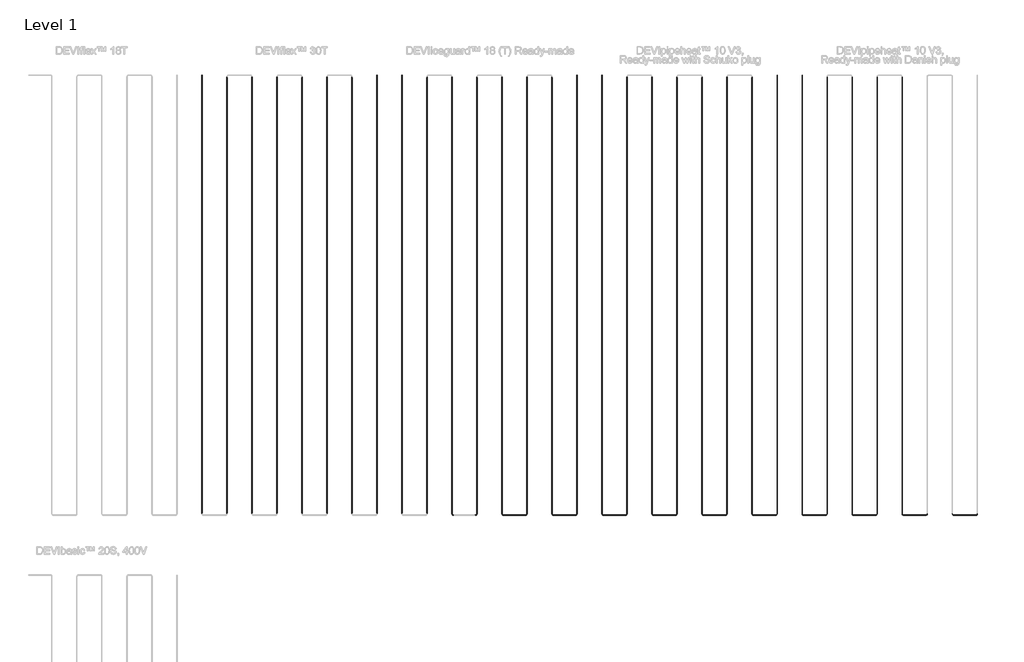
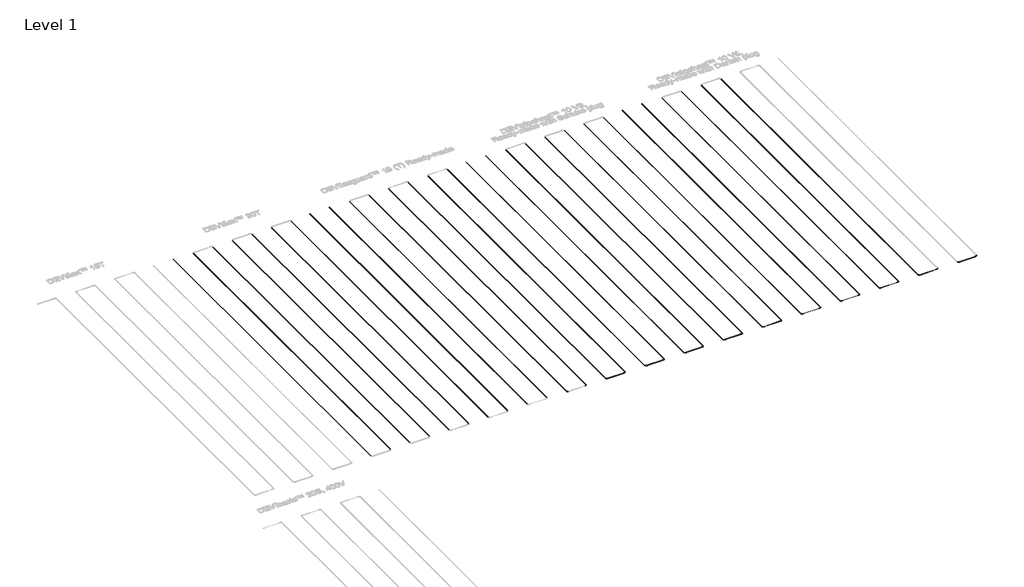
# One storey, part 8 of 26: 39 cable carrier segments, 22 cable carrier fittings.
"""IFC4 building model written with IfcOpenShell, lengths in millimetres."""

from ifc_helpers import new_model, si_unit, point, frame, frame_2d, origin, place, context, project, spatial, circle_curve, trimmed, segment, composite_curve, outline, extrude, transform, mapped, element, save
from components import cable_carrier_fitting_e4b1aeb6

model = new_model("IFC4")

# Units and contexts
model_context = context("Model", 3, world=origin())
ifc_project = project(units=[si_unit("LENGTHUNIT", "METRE", prefix="MILLI")], contexts=[model_context])

# Site, building, storey
site = spatial("IfcSite", under=ifc_project)
building = spatial("IfcBuilding", under=site)
storey = spatial("IfcBuildingStorey", under=building, Name="Level 1", Elevation=0.0)

# Cable carrier fittings
placement = place(None, origin())
cable_carrier_fitting_shape = cable_carrier_fitting_e4b1aeb6(model_context)
element("IfcCableCarrierFitting", 1, ObjectType="Danfoss Elbow : DEVIiceguard™ 18 (T) Ready-made", at=placement, inside=storey, context=model_context, shape_type="MappedRepresentation", body=[
    mapped(cable_carrier_fitting_shape, transform((5412.6597555, -6738.7894079, -100.0), x_axis=(0.0, -1.0, 0.0), y_axis=(1.0, 0.0, 0.0), z_axis=(0.0, 0.0, 1.0))),
])
element("IfcCableCarrierFitting", 2, ObjectType="Danfoss Elbow : DEVIiceguard™ 18 (T) Ready-made", at=placement, inside=storey, context=model_context, shape_type="MappedRepresentation", body=[
    mapped(cable_carrier_fitting_shape, transform((5912.6597555, -6738.7894079, -100.0), x_axis=(1.0, 0.0, 0.0), y_axis=(0.0, 1.0, 0.0), z_axis=(0.0, 0.0, 1.0))),
])
element("IfcCableCarrierFitting", 3, ObjectType="Danfoss Elbow : DEVIiceguard™ 18 (T) Ready-made", at=placement, inside=storey, context=model_context, shape_type="MappedRepresentation", body=[
    mapped(cable_carrier_fitting_shape, transform((6412.6597555, -6738.7894079, -100.0), x_axis=(0.0, -1.0, 0.0), y_axis=(1.0, 0.0, 0.0), z_axis=(0.0, 0.0, 1.0))),
])
element("IfcCableCarrierFitting", 4, ObjectType="Danfoss Elbow : DEVIiceguard™ 18 (T) Ready-made", at=placement, inside=storey, context=model_context, shape_type="MappedRepresentation", body=[
    mapped(cable_carrier_fitting_shape, transform((6912.6597555, -6738.7894079, -100.0), x_axis=(1.0, 0.0, 0.0), y_axis=(0.0, 1.0, 0.0), z_axis=(0.0, 0.0, 1.0))),
])
element("IfcCableCarrierFitting", 5, ObjectType="Danfoss Elbow : DEVIiceguard™ 18 (T) Ready-made", at=placement, inside=storey, context=model_context, shape_type="MappedRepresentation", body=[
    mapped(cable_carrier_fitting_shape, transform((7412.6597555, -6738.7894079, -100.0), x_axis=(0.0, -1.0, 0.0), y_axis=(1.0, 0.0, 0.0), z_axis=(0.0, 0.0, 1.0))),
])
element("IfcCableCarrierFitting", 6, ObjectType="Danfoss Elbow : DEVIiceguard™ 18 (T) Ready-made", at=placement, inside=storey, context=model_context, shape_type="MappedRepresentation", body=[
    mapped(cable_carrier_fitting_shape, transform((7912.6597555, -6738.7894079, -100.0), x_axis=(1.0, 0.0, 0.0), y_axis=(0.0, 1.0, 0.0), z_axis=(0.0, 0.0, 1.0))),
])
element("IfcCableCarrierFitting", 7, ObjectType="Danfoss Elbow : DEVIpipeheat™ 10 V3, Ready-made with Schuko plug", at=placement, inside=storey, context=model_context, shape_type="MappedRepresentation", body=[
    mapped(cable_carrier_fitting_shape, transform((8412.6597555, -6738.7894079, -100.0), x_axis=(0.0, -1.0, 0.0), y_axis=(1.0, 0.0, 0.0), z_axis=(0.0, 0.0, 1.0))),
])
element("IfcCableCarrierFitting", 8, ObjectType="Danfoss Elbow : DEVIpipeheat™ 10 V3, Ready-made with Schuko plug", at=placement, inside=storey, context=model_context, shape_type="MappedRepresentation", body=[
    mapped(cable_carrier_fitting_shape, transform((8912.6597555, -6738.7894079, -100.0), x_axis=(1.0, 0.0, 0.0), y_axis=(0.0, 1.0, 0.0), z_axis=(0.0, 0.0, 1.0))),
])
element("IfcCableCarrierFitting", 9, ObjectType="Danfoss Elbow : DEVIpipeheat™ 10 V3, Ready-made with Schuko plug", at=placement, inside=storey, context=model_context, shape_type="MappedRepresentation", body=[
    mapped(cable_carrier_fitting_shape, transform((9412.6597555, -6738.7894079, -100.0), x_axis=(0.0, -1.0, 0.0), y_axis=(1.0, 0.0, 0.0), z_axis=(0.0, 0.0, 1.0))),
])
element("IfcCableCarrierFitting", 10, ObjectType="Danfoss Elbow : DEVIpipeheat™ 10 V3, Ready-made with Schuko plug", at=placement, inside=storey, context=model_context, shape_type="MappedRepresentation", body=[
    mapped(cable_carrier_fitting_shape, transform((9912.6597555, -6738.7894079, -100.0), x_axis=(1.0, 0.0, 0.0), y_axis=(0.0, 1.0, 0.0), z_axis=(0.0, 0.0, 1.0))),
])
element("IfcCableCarrierFitting", 11, ObjectType="Danfoss Elbow : DEVIpipeheat™ 10 V3, Ready-made with Schuko plug", at=placement, inside=storey, context=model_context, shape_type="MappedRepresentation", body=[
    mapped(cable_carrier_fitting_shape, transform((10412.6597555, -6738.7894079, -100.0), x_axis=(0.0, -1.0, 0.0), y_axis=(1.0, 0.0, 0.0), z_axis=(0.0, 0.0, 1.0))),
])
element("IfcCableCarrierFitting", 12, ObjectType="Danfoss Elbow : DEVIpipeheat™ 10 V3, Ready-made with Schuko plug", at=placement, inside=storey, context=model_context, shape_type="MappedRepresentation", body=[
    mapped(cable_carrier_fitting_shape, transform((10912.6597555, -6738.7894079, -100.0), x_axis=(1.0, 0.0, 0.0), y_axis=(0.0, 1.0, 0.0), z_axis=(0.0, 0.0, 1.0))),
])
element("IfcCableCarrierFitting", 13, ObjectType="Danfoss Elbow : DEVIpipeheat™ 10 V3, Ready-made with Schuko plug", at=placement, inside=storey, context=model_context, shape_type="MappedRepresentation", body=[
    mapped(cable_carrier_fitting_shape, transform((11412.6597555, -6738.7894079, -100.0), x_axis=(0.0, -1.0, 0.0), y_axis=(1.0, 0.0, 0.0), z_axis=(0.0, 0.0, 1.0))),
])
element("IfcCableCarrierFitting", 14, ObjectType="Danfoss Elbow : DEVIpipeheat™ 10 V3, Ready-made with Schuko plug", at=placement, inside=storey, context=model_context, shape_type="MappedRepresentation", body=[
    mapped(cable_carrier_fitting_shape, transform((11912.6597555, -6738.7894079, -100.0), x_axis=(1.0, 0.0, 0.0), y_axis=(0.0, 1.0, 0.0), z_axis=(0.0, 0.0, 1.0))),
])
element("IfcCableCarrierFitting", 15, ObjectType="Danfoss Elbow : DEVIpipeheat™ 10 V3, Ready-made with Danish plug", at=placement, inside=storey, context=model_context, shape_type="MappedRepresentation", body=[
    mapped(cable_carrier_fitting_shape, transform((12412.6597555, -6738.7894079, -100.0), x_axis=(0.0, -1.0, 0.0), y_axis=(1.0, 0.0, 0.0), z_axis=(0.0, 0.0, 1.0))),
])
element("IfcCableCarrierFitting", 16, ObjectType="Danfoss Elbow : DEVIpipeheat™ 10 V3, Ready-made with Danish plug", at=placement, inside=storey, context=model_context, shape_type="MappedRepresentation", body=[
    mapped(cable_carrier_fitting_shape, transform((12912.6597555, -6738.7894079, -100.0), x_axis=(1.0, 0.0, 0.0), y_axis=(0.0, 1.0, 0.0), z_axis=(0.0, 0.0, 1.0))),
])
element("IfcCableCarrierFitting", 17, ObjectType="Danfoss Elbow : DEVIpipeheat™ 10 V3, Ready-made with Danish plug", at=placement, inside=storey, context=model_context, shape_type="MappedRepresentation", body=[
    mapped(cable_carrier_fitting_shape, transform((13412.6597555, -6738.7894079, -100.0), x_axis=(0.0, -1.0, 0.0), y_axis=(1.0, 0.0, 0.0), z_axis=(0.0, 0.0, 1.0))),
])
element("IfcCableCarrierFitting", 18, ObjectType="Danfoss Elbow : DEVIpipeheat™ 10 V3, Ready-made with Danish plug", at=placement, inside=storey, context=model_context, shape_type="MappedRepresentation", body=[
    mapped(cable_carrier_fitting_shape, transform((13912.6597555, -6738.7894079, -100.0), x_axis=(1.0, 0.0, 0.0), y_axis=(0.0, 1.0, 0.0), z_axis=(0.0, 0.0, 1.0))),
])
element("IfcCableCarrierFitting", 19, ObjectType="Danfoss Elbow : DEVIpipeheat™ 10 V3, Ready-made with Danish plug", at=placement, inside=storey, context=model_context, shape_type="MappedRepresentation", body=[
    mapped(cable_carrier_fitting_shape, transform((14412.6597555, -6738.7894079, -100.0), x_axis=(0.0, -1.0, 0.0), y_axis=(1.0, 0.0, 0.0), z_axis=(0.0, 0.0, 1.0))),
])
element("IfcCableCarrierFitting", 20, ObjectType="Danfoss Elbow : DEVIpipeheat™ 10 V3, Ready-made with Danish plug", at=placement, inside=storey, context=model_context, shape_type="MappedRepresentation", body=[
    mapped(cable_carrier_fitting_shape, transform((14912.6597555, -6738.7894079, -100.0), x_axis=(1.0, 0.0, 0.0), y_axis=(0.0, 1.0, 0.0), z_axis=(0.0, 0.0, 1.0))),
])
element("IfcCableCarrierFitting", 21, ObjectType="Danfoss Elbow : DEVIpipeheat™ 10 V3, Ready-made with Danish plug", at=placement, inside=storey, context=model_context, shape_type="MappedRepresentation", body=[
    mapped(cable_carrier_fitting_shape, transform((15412.6597555, -6738.7894079, -100.0), x_axis=(0.0, -1.0, 0.0), y_axis=(1.0, 0.0, 0.0), z_axis=(0.0, 0.0, 1.0))),
])
element("IfcCableCarrierFitting", 22, ObjectType="Danfoss Elbow : DEVIpipeheat™ 10 V3, Ready-made with Danish plug", at=placement, inside=storey, context=model_context, shape_type="MappedRepresentation", body=[
    mapped(cable_carrier_fitting_shape, transform((15912.6597555, -6738.7894079, -100.0), x_axis=(1.0, 0.0, 0.0), y_axis=(0.0, 1.0, 0.0), z_axis=(0.0, 0.0, 1.0))),
])

# Cable carrier segments
element("IfcCableCarrierSegment", 23, ObjectType="DEVIflex™ 30T", at=placement, inside=storey, context=model_context, shape_type="SweptSolid", body=[
    extrude(outline(composite_curve([segment(trimmed(circle_curve(frame_2d((-100.0, 412.6597555)), 3.45), [point((-100.0, 409.2097555))], [point((-103.45, 412.6597555))], False, "CARTESIAN"), True, "CONTINUOUS"), segment(trimmed(circle_curve(frame_2d((-100.0, 412.6597555)), 3.45), [point((-103.45, 412.6597555))], [point((-100.0, 416.1097555))], False, "CARTESIAN"), True, "CONTINUOUS"), segment(trimmed(circle_curve(frame_2d((-100.0, 412.6597555)), 3.45), [point((-100.0, 416.1097555))], [point((-96.55, 412.6597555))], False, "CARTESIAN"), True, "CONTINUOUS"), segment(trimmed(circle_curve(frame_2d((-100.0, 412.6597555)), 3.45), [point((-96.55, 412.6597555))], [point((-100.0, 409.2097555))], False, "CARTESIAN"), True, "CONTINUOUS")], self_intersect=False)), frame((0.0, -6703.7894079, 0.0), z_axis=(0.0, 1.0, 0.0), x_axis=(0.0, 0.0, 1.0)), (0.0, 0.0, 1.0), 8765.0),
])
element("IfcCableCarrierSegment", 24, ObjectType="DEVIflex™ 30T", at=placement, inside=storey, context=model_context, shape_type="SweptSolid", body=[
    extrude(outline(composite_curve([segment(trimmed(circle_curve(frame_2d((-100.0, 912.6597555)), 3.45), [point((-100.0, 916.1097555))], [point((-96.55, 912.6597555))], False, "CARTESIAN"), True, "CONTINUOUS"), segment(trimmed(circle_curve(frame_2d((-100.0, 912.6597555)), 3.45), [point((-96.55, 912.6597555))], [point((-100.0, 909.2097555))], False, "CARTESIAN"), True, "CONTINUOUS"), segment(trimmed(circle_curve(frame_2d((-100.0, 912.6597555)), 3.45), [point((-100.0, 909.2097555))], [point((-103.45, 912.6597555))], False, "CARTESIAN"), True, "CONTINUOUS"), segment(trimmed(circle_curve(frame_2d((-100.0, 912.6597555)), 3.45), [point((-103.45, 912.6597555))], [point((-100.0, 916.1097555))], False, "CARTESIAN"), True, "CONTINUOUS")], self_intersect=False)), frame((0.0, -6703.7894079, 0.0), z_axis=(0.0, 1.0, 0.0), x_axis=(0.0, 0.0, 1.0)), (0.0, 0.0, 1.0), 8730.0),
])
element("IfcCableCarrierSegment", 25, ObjectType="DEVIflex™ 30T", at=placement, inside=storey, context=model_context, shape_type="SweptSolid", body=[
    extrude(outline(composite_curve([segment(trimmed(circle_curve(frame_2d((-100.0, 1412.6597555)), 3.45), [point((-100.0, 1409.2097555))], [point((-103.45, 1412.6597555))], False, "CARTESIAN"), True, "CONTINUOUS"), segment(trimmed(circle_curve(frame_2d((-100.0, 1412.6597555)), 3.45), [point((-103.45, 1412.6597555))], [point((-100.0, 1416.1097555))], False, "CARTESIAN"), True, "CONTINUOUS"), segment(trimmed(circle_curve(frame_2d((-100.0, 1412.6597555)), 3.45), [point((-100.0, 1416.1097555))], [point((-96.55, 1412.6597555))], False, "CARTESIAN"), True, "CONTINUOUS"), segment(trimmed(circle_curve(frame_2d((-100.0, 1412.6597555)), 3.45), [point((-96.55, 1412.6597555))], [point((-100.0, 1409.2097555))], False, "CARTESIAN"), True, "CONTINUOUS")], self_intersect=False)), frame((0.0, -6703.7894079, 0.0), z_axis=(0.0, 1.0, 0.0), x_axis=(0.0, 0.0, 1.0)), (0.0, 0.0, 1.0), 8730.0),
])
element("IfcCableCarrierSegment", 26, ObjectType="DEVIflex™ 30T", at=placement, inside=storey, context=model_context, shape_type="SweptSolid", body=[
    extrude(outline(composite_curve([segment(trimmed(circle_curve(frame_2d((-100.0, 1912.6597555)), 3.45), [point((-100.0, 1916.1097555))], [point((-96.55, 1912.6597555))], False, "CARTESIAN"), True, "CONTINUOUS"), segment(trimmed(circle_curve(frame_2d((-100.0, 1912.6597555)), 3.45), [point((-96.55, 1912.6597555))], [point((-100.0, 1909.2097555))], False, "CARTESIAN"), True, "CONTINUOUS"), segment(trimmed(circle_curve(frame_2d((-100.0, 1912.6597555)), 3.45), [point((-100.0, 1909.2097555))], [point((-103.45, 1912.6597555))], False, "CARTESIAN"), True, "CONTINUOUS"), segment(trimmed(circle_curve(frame_2d((-100.0, 1912.6597555)), 3.45), [point((-103.45, 1912.6597555))], [point((-100.0, 1916.1097555))], False, "CARTESIAN"), True, "CONTINUOUS")], self_intersect=False)), frame((0.0, -6703.7894079, 0.0), z_axis=(0.0, 1.0, 0.0), x_axis=(0.0, 0.0, 1.0)), (0.0, 0.0, 1.0), 8730.0),
])
element("IfcCableCarrierSegment", 27, ObjectType="DEVIflex™ 30T", at=placement, inside=storey, context=model_context, shape_type="SweptSolid", body=[
    extrude(outline(composite_curve([segment(trimmed(circle_curve(frame_2d((-100.0, 2412.6597555)), 3.45), [point((-100.0, 2409.2097555))], [point((-103.45, 2412.6597555))], False, "CARTESIAN"), True, "CONTINUOUS"), segment(trimmed(circle_curve(frame_2d((-100.0, 2412.6597555)), 3.45), [point((-103.45, 2412.6597555))], [point((-100.0, 2416.1097555))], False, "CARTESIAN"), True, "CONTINUOUS"), segment(trimmed(circle_curve(frame_2d((-100.0, 2412.6597555)), 3.45), [point((-100.0, 2416.1097555))], [point((-96.55, 2412.6597555))], False, "CARTESIAN"), True, "CONTINUOUS"), segment(trimmed(circle_curve(frame_2d((-100.0, 2412.6597555)), 3.45), [point((-96.55, 2412.6597555))], [point((-100.0, 2409.2097555))], False, "CARTESIAN"), True, "CONTINUOUS")], self_intersect=False)), frame((0.0, -6703.7894079, 0.0), z_axis=(0.0, 1.0, 0.0), x_axis=(0.0, 0.0, 1.0)), (0.0, 0.0, 1.0), 8730.0),
])
element("IfcCableCarrierSegment", 28, ObjectType="DEVIflex™ 30T", at=placement, inside=storey, context=model_context, shape_type="SweptSolid", body=[
    extrude(outline(composite_curve([segment(trimmed(circle_curve(frame_2d((-100.0, 2912.6597555)), 3.45), [point((-100.0, 2916.1097555))], [point((-96.55, 2912.6597555))], False, "CARTESIAN"), True, "CONTINUOUS"), segment(trimmed(circle_curve(frame_2d((-100.0, 2912.6597555)), 3.45), [point((-96.55, 2912.6597555))], [point((-100.0, 2909.2097555))], False, "CARTESIAN"), True, "CONTINUOUS"), segment(trimmed(circle_curve(frame_2d((-100.0, 2912.6597555)), 3.45), [point((-100.0, 2909.2097555))], [point((-103.45, 2912.6597555))], False, "CARTESIAN"), True, "CONTINUOUS"), segment(trimmed(circle_curve(frame_2d((-100.0, 2912.6597555)), 3.45), [point((-103.45, 2912.6597555))], [point((-100.0, 2916.1097555))], False, "CARTESIAN"), True, "CONTINUOUS")], self_intersect=False)), frame((0.0, -6703.7894079, 0.0), z_axis=(0.0, 1.0, 0.0), x_axis=(0.0, 0.0, 1.0)), (0.0, 0.0, 1.0), 8730.0),
])
element("IfcCableCarrierSegment", 29, ObjectType="DEVIflex™ 30T", at=placement, inside=storey, context=model_context, shape_type="SweptSolid", body=[
    extrude(outline(composite_curve([segment(trimmed(circle_curve(frame_2d((-100.0, 3412.6597555)), 3.45), [point((-100.0, 3409.2097555))], [point((-103.45, 3412.6597555))], False, "CARTESIAN"), True, "CONTINUOUS"), segment(trimmed(circle_curve(frame_2d((-100.0, 3412.6597555)), 3.45), [point((-103.45, 3412.6597555))], [point((-100.0, 3416.1097555))], False, "CARTESIAN"), True, "CONTINUOUS"), segment(trimmed(circle_curve(frame_2d((-100.0, 3412.6597555)), 3.45), [point((-100.0, 3416.1097555))], [point((-96.55, 3412.6597555))], False, "CARTESIAN"), True, "CONTINUOUS"), segment(trimmed(circle_curve(frame_2d((-100.0, 3412.6597555)), 3.45), [point((-96.55, 3412.6597555))], [point((-100.0, 3409.2097555))], False, "CARTESIAN"), True, "CONTINUOUS")], self_intersect=False)), frame((0.0, -6703.7894079, 0.0), z_axis=(0.0, 1.0, 0.0), x_axis=(0.0, 0.0, 1.0)), (0.0, 0.0, 1.0), 8730.0),
])
element("IfcCableCarrierSegment", 30, ObjectType="DEVIflex™ 30T", at=placement, inside=storey, context=model_context, shape_type="SweptSolid", body=[
    extrude(outline(composite_curve([segment(trimmed(circle_curve(frame_2d((-100.0, 3912.6597555)), 3.45), [point((-100.0, 3916.1097555))], [point((-96.55, 3912.6597555))], False, "CARTESIAN"), True, "CONTINUOUS"), segment(trimmed(circle_curve(frame_2d((-100.0, 3912.6597555)), 3.45), [point((-96.55, 3912.6597555))], [point((-100.0, 3909.2097555))], False, "CARTESIAN"), True, "CONTINUOUS"), segment(trimmed(circle_curve(frame_2d((-100.0, 3912.6597555)), 3.45), [point((-100.0, 3909.2097555))], [point((-103.45, 3912.6597555))], False, "CARTESIAN"), True, "CONTINUOUS"), segment(trimmed(circle_curve(frame_2d((-100.0, 3912.6597555)), 3.45), [point((-103.45, 3912.6597555))], [point((-100.0, 3916.1097555))], False, "CARTESIAN"), True, "CONTINUOUS")], self_intersect=False)), frame((0.0, -6703.7894079, 0.0), z_axis=(0.0, 1.0, 0.0), x_axis=(0.0, 0.0, 1.0)), (0.0, 0.0, 1.0), 8765.0),
])
element("IfcCableCarrierSegment", 31, ObjectType="DEVIiceguard™ 18 (T) Ready-made", at=placement, inside=storey, context=model_context, shape_type="SweptSolid", body=[
    extrude(outline(composite_curve([segment(trimmed(circle_curve(frame_2d((-100.0, 4412.6597555)), 3.45), [point((-100.0, 4409.2097555))], [point((-103.45, 4412.6597555))], False, "CARTESIAN"), True, "CONTINUOUS"), segment(trimmed(circle_curve(frame_2d((-100.0, 4412.6597555)), 3.45), [point((-103.45, 4412.6597555))], [point((-100.0, 4416.1097555))], False, "CARTESIAN"), True, "CONTINUOUS"), segment(trimmed(circle_curve(frame_2d((-100.0, 4412.6597555)), 3.45), [point((-100.0, 4416.1097555))], [point((-96.55, 4412.6597555))], False, "CARTESIAN"), True, "CONTINUOUS"), segment(trimmed(circle_curve(frame_2d((-100.0, 4412.6597555)), 3.45), [point((-96.55, 4412.6597555))], [point((-100.0, 4409.2097555))], False, "CARTESIAN"), True, "CONTINUOUS")], self_intersect=False)), frame((0.0, -6703.7894079, 0.0), z_axis=(0.0, 1.0, 0.0), x_axis=(0.0, 0.0, 1.0)), (0.0, 0.0, 1.0), 8765.0),
])
element("IfcCableCarrierSegment", 32, ObjectType="DEVIiceguard™ 18 (T) Ready-made", at=placement, inside=storey, context=model_context, shape_type="SweptSolid", body=[
    extrude(outline(composite_curve([segment(trimmed(circle_curve(frame_2d((-100.0, 4912.6597555)), 3.45), [point((-100.0, 4916.1097555))], [point((-96.55, 4912.6597555))], False, "CARTESIAN"), True, "CONTINUOUS"), segment(trimmed(circle_curve(frame_2d((-100.0, 4912.6597555)), 3.45), [point((-96.55, 4912.6597555))], [point((-100.0, 4909.2097555))], False, "CARTESIAN"), True, "CONTINUOUS"), segment(trimmed(circle_curve(frame_2d((-100.0, 4912.6597555)), 3.45), [point((-100.0, 4909.2097555))], [point((-103.45, 4912.6597555))], False, "CARTESIAN"), True, "CONTINUOUS"), segment(trimmed(circle_curve(frame_2d((-100.0, 4912.6597555)), 3.45), [point((-103.45, 4912.6597555))], [point((-100.0, 4916.1097555))], False, "CARTESIAN"), True, "CONTINUOUS")], self_intersect=False)), frame((0.0, -6703.7894079, 0.0), z_axis=(0.0, 1.0, 0.0), x_axis=(0.0, 0.0, 1.0)), (0.0, 0.0, 1.0), 8730.0),
])
element("IfcCableCarrierSegment", 33, ObjectType="DEVIiceguard™ 18 (T) Ready-made", at=placement, inside=storey, context=model_context, shape_type="SweptSolid", body=[
    extrude(outline(composite_curve([segment(trimmed(circle_curve(frame_2d((-100.0, 5412.6597555)), 3.45), [point((-100.0, 5409.2097555))], [point((-103.45, 5412.6597555))], False, "CARTESIAN"), True, "CONTINUOUS"), segment(trimmed(circle_curve(frame_2d((-100.0, 5412.6597555)), 3.45), [point((-103.45, 5412.6597555))], [point((-100.0, 5416.1097555))], False, "CARTESIAN"), True, "CONTINUOUS"), segment(trimmed(circle_curve(frame_2d((-100.0, 5412.6597555)), 3.45), [point((-100.0, 5416.1097555))], [point((-96.55, 5412.6597555))], False, "CARTESIAN"), True, "CONTINUOUS"), segment(trimmed(circle_curve(frame_2d((-100.0, 5412.6597555)), 3.45), [point((-96.55, 5412.6597555))], [point((-100.0, 5409.2097555))], False, "CARTESIAN"), True, "CONTINUOUS")], self_intersect=False)), frame((0.0, -6703.7894079, 0.0), z_axis=(0.0, 1.0, 0.0), x_axis=(0.0, 0.0, 1.0)), (0.0, 0.0, 1.0), 8730.0),
])
element("IfcCableCarrierSegment", 34, ObjectType="DEVIiceguard™ 18 (T) Ready-made", at=placement, inside=storey, context=model_context, shape_type="SweptSolid", body=[
    extrude(outline(composite_curve([segment(trimmed(circle_curve(frame_2d((-100.0, 5912.6597555)), 3.45), [point((-100.0, 5916.1097555))], [point((-96.55, 5912.6597555))], False, "CARTESIAN"), True, "CONTINUOUS"), segment(trimmed(circle_curve(frame_2d((-100.0, 5912.6597555)), 3.45), [point((-96.55, 5912.6597555))], [point((-100.0, 5909.2097555))], False, "CARTESIAN"), True, "CONTINUOUS"), segment(trimmed(circle_curve(frame_2d((-100.0, 5912.6597555)), 3.45), [point((-100.0, 5909.2097555))], [point((-103.45, 5912.6597555))], False, "CARTESIAN"), True, "CONTINUOUS"), segment(trimmed(circle_curve(frame_2d((-100.0, 5912.6597555)), 3.45), [point((-103.45, 5912.6597555))], [point((-100.0, 5916.1097555))], False, "CARTESIAN"), True, "CONTINUOUS")], self_intersect=False)), frame((0.0, -6703.7894079, 0.0), z_axis=(0.0, 1.0, 0.0), x_axis=(0.0, 0.0, 1.0)), (0.0, 0.0, 1.0), 8730.0),
])
element("IfcCableCarrierSegment", 35, ObjectType="DEVIiceguard™ 18 (T) Ready-made", at=placement, inside=storey, context=model_context, shape_type="SweptSolid", body=[
    extrude(outline(composite_curve([segment(trimmed(circle_curve(frame_2d((-100.0, 6412.6597555)), 3.45), [point((-100.0, 6409.2097555))], [point((-103.45, 6412.6597555))], False, "CARTESIAN"), True, "CONTINUOUS"), segment(trimmed(circle_curve(frame_2d((-100.0, 6412.6597555)), 3.45), [point((-103.45, 6412.6597555))], [point((-100.0, 6416.1097555))], False, "CARTESIAN"), True, "CONTINUOUS"), segment(trimmed(circle_curve(frame_2d((-100.0, 6412.6597555)), 3.45), [point((-100.0, 6416.1097555))], [point((-96.55, 6412.6597555))], False, "CARTESIAN"), True, "CONTINUOUS"), segment(trimmed(circle_curve(frame_2d((-100.0, 6412.6597555)), 3.45), [point((-96.55, 6412.6597555))], [point((-100.0, 6409.2097555))], False, "CARTESIAN"), True, "CONTINUOUS")], self_intersect=False)), frame((0.0, -6703.7894079, 0.0), z_axis=(0.0, 1.0, 0.0), x_axis=(0.0, 0.0, 1.0)), (0.0, 0.0, 1.0), 8730.0),
])
element("IfcCableCarrierSegment", 36, ObjectType="DEVIiceguard™ 18 (T) Ready-made", at=placement, inside=storey, context=model_context, shape_type="SweptSolid", body=[
    extrude(outline(composite_curve([segment(trimmed(circle_curve(frame_2d((-6738.7894079, -100.0)), 3.45), [point((-6742.2394079, -100.0))], [point((-6738.7894079, -96.55))], False, "CARTESIAN"), True, "CONTINUOUS"), segment(trimmed(circle_curve(frame_2d((-6738.7894079, -100.0)), 3.45), [point((-6738.7894079, -96.55))], [point((-6735.3394079, -100.0))], False, "CARTESIAN"), True, "CONTINUOUS"), segment(trimmed(circle_curve(frame_2d((-6738.7894079, -100.0)), 3.45), [point((-6735.3394079, -100.0))], [point((-6738.7894079, -103.45))], False, "CARTESIAN"), True, "CONTINUOUS"), segment(trimmed(circle_curve(frame_2d((-6738.7894079, -100.0)), 3.45), [point((-6738.7894079, -103.45))], [point((-6742.2394079, -100.0))], False, "CARTESIAN"), True, "CONTINUOUS")], self_intersect=False)), frame((6447.6597555, 0.0, 0.0), z_axis=(1.0, 0.0, 0.0), x_axis=(0.0, 1.0, 0.0)), (0.0, 0.0, 1.0), 430.0),
])
element("IfcCableCarrierSegment", 37, ObjectType="DEVIiceguard™ 18 (T) Ready-made", at=placement, inside=storey, context=model_context, shape_type="SweptSolid", body=[
    extrude(outline(composite_curve([segment(trimmed(circle_curve(frame_2d((-100.0, 6912.6597555)), 3.45), [point((-100.0, 6916.1097555))], [point((-96.55, 6912.6597555))], False, "CARTESIAN"), True, "CONTINUOUS"), segment(trimmed(circle_curve(frame_2d((-100.0, 6912.6597555)), 3.45), [point((-96.55, 6912.6597555))], [point((-100.0, 6909.2097555))], False, "CARTESIAN"), True, "CONTINUOUS"), segment(trimmed(circle_curve(frame_2d((-100.0, 6912.6597555)), 3.45), [point((-100.0, 6909.2097555))], [point((-103.45, 6912.6597555))], False, "CARTESIAN"), True, "CONTINUOUS"), segment(trimmed(circle_curve(frame_2d((-100.0, 6912.6597555)), 3.45), [point((-103.45, 6912.6597555))], [point((-100.0, 6916.1097555))], False, "CARTESIAN"), True, "CONTINUOUS")], self_intersect=False)), frame((0.0, -6703.7894079, 0.0), z_axis=(0.0, 1.0, 0.0), x_axis=(0.0, 0.0, 1.0)), (0.0, 0.0, 1.0), 8730.0),
])
element("IfcCableCarrierSegment", 38, ObjectType="DEVIiceguard™ 18 (T) Ready-made", at=placement, inside=storey, context=model_context, shape_type="SweptSolid", body=[
    extrude(outline(composite_curve([segment(trimmed(circle_curve(frame_2d((-100.0, 7412.6597555)), 3.45), [point((-100.0, 7409.2097555))], [point((-103.45, 7412.6597555))], False, "CARTESIAN"), True, "CONTINUOUS"), segment(trimmed(circle_curve(frame_2d((-100.0, 7412.6597555)), 3.45), [point((-103.45, 7412.6597555))], [point((-100.0, 7416.1097555))], False, "CARTESIAN"), True, "CONTINUOUS"), segment(trimmed(circle_curve(frame_2d((-100.0, 7412.6597555)), 3.45), [point((-100.0, 7416.1097555))], [point((-96.55, 7412.6597555))], False, "CARTESIAN"), True, "CONTINUOUS"), segment(trimmed(circle_curve(frame_2d((-100.0, 7412.6597555)), 3.45), [point((-96.55, 7412.6597555))], [point((-100.0, 7409.2097555))], False, "CARTESIAN"), True, "CONTINUOUS")], self_intersect=False)), frame((0.0, -6703.7894079, 0.0), z_axis=(0.0, 1.0, 0.0), x_axis=(0.0, 0.0, 1.0)), (0.0, 0.0, 1.0), 8730.0),
])
element("IfcCableCarrierSegment", 39, ObjectType="DEVIiceguard™ 18 (T) Ready-made", at=placement, inside=storey, context=model_context, shape_type="SweptSolid", body=[
    extrude(outline(composite_curve([segment(trimmed(circle_curve(frame_2d((-6738.7894079, -100.0)), 3.45), [point((-6742.2394079, -100.0))], [point((-6738.7894079, -96.55))], False, "CARTESIAN"), True, "CONTINUOUS"), segment(trimmed(circle_curve(frame_2d((-6738.7894079, -100.0)), 3.45), [point((-6738.7894079, -96.55))], [point((-6735.3394079, -100.0))], False, "CARTESIAN"), True, "CONTINUOUS"), segment(trimmed(circle_curve(frame_2d((-6738.7894079, -100.0)), 3.45), [point((-6735.3394079, -100.0))], [point((-6738.7894079, -103.45))], False, "CARTESIAN"), True, "CONTINUOUS"), segment(trimmed(circle_curve(frame_2d((-6738.7894079, -100.0)), 3.45), [point((-6738.7894079, -103.45))], [point((-6742.2394079, -100.0))], False, "CARTESIAN"), True, "CONTINUOUS")], self_intersect=False)), frame((7447.6597555, 0.0, 0.0), z_axis=(1.0, 0.0, 0.0), x_axis=(0.0, 1.0, 0.0)), (0.0, 0.0, 1.0), 430.0),
])
element("IfcCableCarrierSegment", 40, ObjectType="DEVIiceguard™ 18 (T) Ready-made", at=placement, inside=storey, context=model_context, shape_type="SweptSolid", body=[
    extrude(outline(composite_curve([segment(trimmed(circle_curve(frame_2d((-100.0, 7912.6597555)), 3.45), [point((-100.0, 7916.1097555))], [point((-96.55, 7912.6597555))], False, "CARTESIAN"), True, "CONTINUOUS"), segment(trimmed(circle_curve(frame_2d((-100.0, 7912.6597555)), 3.45), [point((-96.55, 7912.6597555))], [point((-100.0, 7909.2097555))], False, "CARTESIAN"), True, "CONTINUOUS"), segment(trimmed(circle_curve(frame_2d((-100.0, 7912.6597555)), 3.45), [point((-100.0, 7909.2097555))], [point((-103.45, 7912.6597555))], False, "CARTESIAN"), True, "CONTINUOUS"), segment(trimmed(circle_curve(frame_2d((-100.0, 7912.6597555)), 3.45), [point((-103.45, 7912.6597555))], [point((-100.0, 7916.1097555))], False, "CARTESIAN"), True, "CONTINUOUS")], self_intersect=False)), frame((0.0, -6703.7894079, 0.0), z_axis=(0.0, 1.0, 0.0), x_axis=(0.0, 0.0, 1.0)), (0.0, 0.0, 1.0), 8765.0),
])
element("IfcCableCarrierSegment", 41, ObjectType="DEVIpipeheat™ 10 V3, Ready-made with Schuko plug", at=placement, inside=storey, context=model_context, shape_type="SweptSolid", body=[
    extrude(outline(composite_curve([segment(trimmed(circle_curve(frame_2d((-100.0, 8412.6597555)), 3.45), [point((-100.0, 8409.2097555))], [point((-103.45, 8412.6597555))], False, "CARTESIAN"), True, "CONTINUOUS"), segment(trimmed(circle_curve(frame_2d((-100.0, 8412.6597555)), 3.45), [point((-103.45, 8412.6597555))], [point((-100.0, 8416.1097555))], False, "CARTESIAN"), True, "CONTINUOUS"), segment(trimmed(circle_curve(frame_2d((-100.0, 8412.6597555)), 3.45), [point((-100.0, 8416.1097555))], [point((-96.55, 8412.6597555))], False, "CARTESIAN"), True, "CONTINUOUS"), segment(trimmed(circle_curve(frame_2d((-100.0, 8412.6597555)), 3.45), [point((-96.55, 8412.6597555))], [point((-100.0, 8409.2097555))], False, "CARTESIAN"), True, "CONTINUOUS")], self_intersect=False)), frame((0.0, -6703.7894079, 0.0), z_axis=(0.0, 1.0, 0.0), x_axis=(0.0, 0.0, 1.0)), (0.0, 0.0, 1.0), 8765.0),
])
element("IfcCableCarrierSegment", 42, ObjectType="DEVIpipeheat™ 10 V3, Ready-made with Schuko plug", at=placement, inside=storey, context=model_context, shape_type="SweptSolid", body=[
    extrude(outline(composite_curve([segment(trimmed(circle_curve(frame_2d((-6738.7894079, -100.0)), 3.45), [point((-6742.2394079, -100.0))], [point((-6738.7894079, -96.55))], False, "CARTESIAN"), True, "CONTINUOUS"), segment(trimmed(circle_curve(frame_2d((-6738.7894079, -100.0)), 3.45), [point((-6738.7894079, -96.55))], [point((-6735.3394079, -100.0))], False, "CARTESIAN"), True, "CONTINUOUS"), segment(trimmed(circle_curve(frame_2d((-6738.7894079, -100.0)), 3.45), [point((-6735.3394079, -100.0))], [point((-6738.7894079, -103.45))], False, "CARTESIAN"), True, "CONTINUOUS"), segment(trimmed(circle_curve(frame_2d((-6738.7894079, -100.0)), 3.45), [point((-6738.7894079, -103.45))], [point((-6742.2394079, -100.0))], False, "CARTESIAN"), True, "CONTINUOUS")], self_intersect=False)), frame((8447.6597555, 0.0, 0.0), z_axis=(1.0, 0.0, 0.0), x_axis=(0.0, 1.0, 0.0)), (0.0, 0.0, 1.0), 430.0),
])
element("IfcCableCarrierSegment", 43, ObjectType="DEVIpipeheat™ 10 V3, Ready-made with Schuko plug", at=placement, inside=storey, context=model_context, shape_type="SweptSolid", body=[
    extrude(outline(composite_curve([segment(trimmed(circle_curve(frame_2d((-100.0, 8912.6597555)), 3.45), [point((-100.0, 8916.1097555))], [point((-96.55, 8912.6597555))], False, "CARTESIAN"), True, "CONTINUOUS"), segment(trimmed(circle_curve(frame_2d((-100.0, 8912.6597555)), 3.45), [point((-96.55, 8912.6597555))], [point((-100.0, 8909.2097555))], False, "CARTESIAN"), True, "CONTINUOUS"), segment(trimmed(circle_curve(frame_2d((-100.0, 8912.6597555)), 3.45), [point((-100.0, 8909.2097555))], [point((-103.45, 8912.6597555))], False, "CARTESIAN"), True, "CONTINUOUS"), segment(trimmed(circle_curve(frame_2d((-100.0, 8912.6597555)), 3.45), [point((-103.45, 8912.6597555))], [point((-100.0, 8916.1097555))], False, "CARTESIAN"), True, "CONTINUOUS")], self_intersect=False)), frame((0.0, -6703.7894079, 0.0), z_axis=(0.0, 1.0, 0.0), x_axis=(0.0, 0.0, 1.0)), (0.0, 0.0, 1.0), 8730.0),
])
element("IfcCableCarrierSegment", 44, ObjectType="DEVIpipeheat™ 10 V3, Ready-made with Schuko plug", at=placement, inside=storey, context=model_context, shape_type="SweptSolid", body=[
    extrude(outline(composite_curve([segment(trimmed(circle_curve(frame_2d((-100.0, 9412.6597555)), 3.45), [point((-100.0, 9409.2097555))], [point((-103.45, 9412.6597555))], False, "CARTESIAN"), True, "CONTINUOUS"), segment(trimmed(circle_curve(frame_2d((-100.0, 9412.6597555)), 3.45), [point((-103.45, 9412.6597555))], [point((-100.0, 9416.1097555))], False, "CARTESIAN"), True, "CONTINUOUS"), segment(trimmed(circle_curve(frame_2d((-100.0, 9412.6597555)), 3.45), [point((-100.0, 9416.1097555))], [point((-96.55, 9412.6597555))], False, "CARTESIAN"), True, "CONTINUOUS"), segment(trimmed(circle_curve(frame_2d((-100.0, 9412.6597555)), 3.45), [point((-96.55, 9412.6597555))], [point((-100.0, 9409.2097555))], False, "CARTESIAN"), True, "CONTINUOUS")], self_intersect=False)), frame((0.0, -6703.7894079, 0.0), z_axis=(0.0, 1.0, 0.0), x_axis=(0.0, 0.0, 1.0)), (0.0, 0.0, 1.0), 8730.0),
])
element("IfcCableCarrierSegment", 45, ObjectType="DEVIpipeheat™ 10 V3, Ready-made with Schuko plug", at=placement, inside=storey, context=model_context, shape_type="SweptSolid", body=[
    extrude(outline(composite_curve([segment(trimmed(circle_curve(frame_2d((-6738.7894079, -100.0)), 3.45), [point((-6742.2394079, -100.0))], [point((-6738.7894079, -96.55))], False, "CARTESIAN"), True, "CONTINUOUS"), segment(trimmed(circle_curve(frame_2d((-6738.7894079, -100.0)), 3.45), [point((-6738.7894079, -96.55))], [point((-6735.3394079, -100.0))], False, "CARTESIAN"), True, "CONTINUOUS"), segment(trimmed(circle_curve(frame_2d((-6738.7894079, -100.0)), 3.45), [point((-6735.3394079, -100.0))], [point((-6738.7894079, -103.45))], False, "CARTESIAN"), True, "CONTINUOUS"), segment(trimmed(circle_curve(frame_2d((-6738.7894079, -100.0)), 3.45), [point((-6738.7894079, -103.45))], [point((-6742.2394079, -100.0))], False, "CARTESIAN"), True, "CONTINUOUS")], self_intersect=False)), frame((9447.6597555, 0.0, 0.0), z_axis=(1.0, 0.0, 0.0), x_axis=(0.0, 1.0, 0.0)), (0.0, 0.0, 1.0), 430.0),
])
element("IfcCableCarrierSegment", 46, ObjectType="DEVIpipeheat™ 10 V3, Ready-made with Schuko plug", at=placement, inside=storey, context=model_context, shape_type="SweptSolid", body=[
    extrude(outline(composite_curve([segment(trimmed(circle_curve(frame_2d((-100.0, 9912.6597555)), 3.45), [point((-100.0, 9916.1097555))], [point((-96.55, 9912.6597555))], False, "CARTESIAN"), True, "CONTINUOUS"), segment(trimmed(circle_curve(frame_2d((-100.0, 9912.6597555)), 3.45), [point((-96.55, 9912.6597555))], [point((-100.0, 9909.2097555))], False, "CARTESIAN"), True, "CONTINUOUS"), segment(trimmed(circle_curve(frame_2d((-100.0, 9912.6597555)), 3.45), [point((-100.0, 9909.2097555))], [point((-103.45, 9912.6597555))], False, "CARTESIAN"), True, "CONTINUOUS"), segment(trimmed(circle_curve(frame_2d((-100.0, 9912.6597555)), 3.45), [point((-103.45, 9912.6597555))], [point((-100.0, 9916.1097555))], False, "CARTESIAN"), True, "CONTINUOUS")], self_intersect=False)), frame((0.0, -6703.7894079, 0.0), z_axis=(0.0, 1.0, 0.0), x_axis=(0.0, 0.0, 1.0)), (0.0, 0.0, 1.0), 8730.0),
])
element("IfcCableCarrierSegment", 47, ObjectType="DEVIpipeheat™ 10 V3, Ready-made with Schuko plug", at=placement, inside=storey, context=model_context, shape_type="SweptSolid", body=[
    extrude(outline(composite_curve([segment(trimmed(circle_curve(frame_2d((-100.0, 10412.6597555)), 3.45), [point((-100.0, 10409.2097555))], [point((-103.45, 10412.6597555))], False, "CARTESIAN"), True, "CONTINUOUS"), segment(trimmed(circle_curve(frame_2d((-100.0, 10412.6597555)), 3.45), [point((-103.45, 10412.6597555))], [point((-100.0, 10416.1097555))], False, "CARTESIAN"), True, "CONTINUOUS"), segment(trimmed(circle_curve(frame_2d((-100.0, 10412.6597555)), 3.45), [point((-100.0, 10416.1097555))], [point((-96.55, 10412.6597555))], False, "CARTESIAN"), True, "CONTINUOUS"), segment(trimmed(circle_curve(frame_2d((-100.0, 10412.6597555)), 3.45), [point((-96.55, 10412.6597555))], [point((-100.0, 10409.2097555))], False, "CARTESIAN"), True, "CONTINUOUS")], self_intersect=False)), frame((0.0, -6703.7894079, 0.0), z_axis=(0.0, 1.0, 0.0), x_axis=(0.0, 0.0, 1.0)), (0.0, 0.0, 1.0), 8730.0),
])
element("IfcCableCarrierSegment", 48, ObjectType="DEVIpipeheat™ 10 V3, Ready-made with Schuko plug", at=placement, inside=storey, context=model_context, shape_type="SweptSolid", body=[
    extrude(outline(composite_curve([segment(trimmed(circle_curve(frame_2d((-6738.7894079, -100.0)), 3.45), [point((-6742.2394079, -100.0))], [point((-6738.7894079, -96.55))], False, "CARTESIAN"), True, "CONTINUOUS"), segment(trimmed(circle_curve(frame_2d((-6738.7894079, -100.0)), 3.45), [point((-6738.7894079, -96.55))], [point((-6735.3394079, -100.0))], False, "CARTESIAN"), True, "CONTINUOUS"), segment(trimmed(circle_curve(frame_2d((-6738.7894079, -100.0)), 3.45), [point((-6735.3394079, -100.0))], [point((-6738.7894079, -103.45))], False, "CARTESIAN"), True, "CONTINUOUS"), segment(trimmed(circle_curve(frame_2d((-6738.7894079, -100.0)), 3.45), [point((-6738.7894079, -103.45))], [point((-6742.2394079, -100.0))], False, "CARTESIAN"), True, "CONTINUOUS")], self_intersect=False)), frame((10447.6597555, 0.0, 0.0), z_axis=(1.0, 0.0, 0.0), x_axis=(0.0, 1.0, 0.0)), (0.0, 0.0, 1.0), 430.0),
])
element("IfcCableCarrierSegment", 49, ObjectType="DEVIpipeheat™ 10 V3, Ready-made with Schuko plug", at=placement, inside=storey, context=model_context, shape_type="SweptSolid", body=[
    extrude(outline(composite_curve([segment(trimmed(circle_curve(frame_2d((-100.0, 10912.6597555)), 3.45), [point((-100.0, 10916.1097555))], [point((-96.55, 10912.6597555))], False, "CARTESIAN"), True, "CONTINUOUS"), segment(trimmed(circle_curve(frame_2d((-100.0, 10912.6597555)), 3.45), [point((-96.55, 10912.6597555))], [point((-100.0, 10909.2097555))], False, "CARTESIAN"), True, "CONTINUOUS"), segment(trimmed(circle_curve(frame_2d((-100.0, 10912.6597555)), 3.45), [point((-100.0, 10909.2097555))], [point((-103.45, 10912.6597555))], False, "CARTESIAN"), True, "CONTINUOUS"), segment(trimmed(circle_curve(frame_2d((-100.0, 10912.6597555)), 3.45), [point((-103.45, 10912.6597555))], [point((-100.0, 10916.1097555))], False, "CARTESIAN"), True, "CONTINUOUS")], self_intersect=False)), frame((0.0, -6703.7894079, 0.0), z_axis=(0.0, 1.0, 0.0), x_axis=(0.0, 0.0, 1.0)), (0.0, 0.0, 1.0), 8730.0),
])
element("IfcCableCarrierSegment", 50, ObjectType="DEVIpipeheat™ 10 V3, Ready-made with Schuko plug", at=placement, inside=storey, context=model_context, shape_type="SweptSolid", body=[
    extrude(outline(composite_curve([segment(trimmed(circle_curve(frame_2d((-100.0, 11412.6597555)), 3.45), [point((-100.0, 11409.2097555))], [point((-103.45, 11412.6597555))], False, "CARTESIAN"), True, "CONTINUOUS"), segment(trimmed(circle_curve(frame_2d((-100.0, 11412.6597555)), 3.45), [point((-103.45, 11412.6597555))], [point((-100.0, 11416.1097555))], False, "CARTESIAN"), True, "CONTINUOUS"), segment(trimmed(circle_curve(frame_2d((-100.0, 11412.6597555)), 3.45), [point((-100.0, 11416.1097555))], [point((-96.55, 11412.6597555))], False, "CARTESIAN"), True, "CONTINUOUS"), segment(trimmed(circle_curve(frame_2d((-100.0, 11412.6597555)), 3.45), [point((-96.55, 11412.6597555))], [point((-100.0, 11409.2097555))], False, "CARTESIAN"), True, "CONTINUOUS")], self_intersect=False)), frame((0.0, -6703.7894079, 0.0), z_axis=(0.0, 1.0, 0.0), x_axis=(0.0, 0.0, 1.0)), (0.0, 0.0, 1.0), 8730.0),
])
element("IfcCableCarrierSegment", 51, ObjectType="DEVIpipeheat™ 10 V3, Ready-made with Schuko plug", at=placement, inside=storey, context=model_context, shape_type="SweptSolid", body=[
    extrude(outline(composite_curve([segment(trimmed(circle_curve(frame_2d((-6738.7894079, -100.0)), 3.45), [point((-6742.2394079, -100.0))], [point((-6738.7894079, -96.55))], False, "CARTESIAN"), True, "CONTINUOUS"), segment(trimmed(circle_curve(frame_2d((-6738.7894079, -100.0)), 3.45), [point((-6738.7894079, -96.55))], [point((-6735.3394079, -100.0))], False, "CARTESIAN"), True, "CONTINUOUS"), segment(trimmed(circle_curve(frame_2d((-6738.7894079, -100.0)), 3.45), [point((-6735.3394079, -100.0))], [point((-6738.7894079, -103.45))], False, "CARTESIAN"), True, "CONTINUOUS"), segment(trimmed(circle_curve(frame_2d((-6738.7894079, -100.0)), 3.45), [point((-6738.7894079, -103.45))], [point((-6742.2394079, -100.0))], False, "CARTESIAN"), True, "CONTINUOUS")], self_intersect=False)), frame((11447.6597555, 0.0, 0.0), z_axis=(1.0, 0.0, 0.0), x_axis=(0.0, 1.0, 0.0)), (0.0, 0.0, 1.0), 430.0),
])
element("IfcCableCarrierSegment", 52, ObjectType="DEVIpipeheat™ 10 V3, Ready-made with Schuko plug", at=placement, inside=storey, context=model_context, shape_type="SweptSolid", body=[
    extrude(outline(composite_curve([segment(trimmed(circle_curve(frame_2d((-100.0, 11912.6597555)), 3.45), [point((-100.0, 11916.1097555))], [point((-96.55, 11912.6597555))], False, "CARTESIAN"), True, "CONTINUOUS"), segment(trimmed(circle_curve(frame_2d((-100.0, 11912.6597555)), 3.45), [point((-96.55, 11912.6597555))], [point((-100.0, 11909.2097555))], False, "CARTESIAN"), True, "CONTINUOUS"), segment(trimmed(circle_curve(frame_2d((-100.0, 11912.6597555)), 3.45), [point((-100.0, 11909.2097555))], [point((-103.45, 11912.6597555))], False, "CARTESIAN"), True, "CONTINUOUS"), segment(trimmed(circle_curve(frame_2d((-100.0, 11912.6597555)), 3.45), [point((-103.45, 11912.6597555))], [point((-100.0, 11916.1097555))], False, "CARTESIAN"), True, "CONTINUOUS")], self_intersect=False)), frame((0.0, -6703.7894079, 0.0), z_axis=(0.0, 1.0, 0.0), x_axis=(0.0, 0.0, 1.0)), (0.0, 0.0, 1.0), 8765.0),
])
element("IfcCableCarrierSegment", 53, ObjectType="DEVIpipeheat™ 10 V3, Ready-made with Danish plug", at=placement, inside=storey, context=model_context, shape_type="SweptSolid", body=[
    extrude(outline(composite_curve([segment(trimmed(circle_curve(frame_2d((-100.0, 12412.6597555)), 3.45), [point((-100.0, 12409.2097555))], [point((-103.45, 12412.6597555))], False, "CARTESIAN"), True, "CONTINUOUS"), segment(trimmed(circle_curve(frame_2d((-100.0, 12412.6597555)), 3.45), [point((-103.45, 12412.6597555))], [point((-100.0, 12416.1097555))], False, "CARTESIAN"), True, "CONTINUOUS"), segment(trimmed(circle_curve(frame_2d((-100.0, 12412.6597555)), 3.45), [point((-100.0, 12416.1097555))], [point((-96.55, 12412.6597555))], False, "CARTESIAN"), True, "CONTINUOUS"), segment(trimmed(circle_curve(frame_2d((-100.0, 12412.6597555)), 3.45), [point((-96.55, 12412.6597555))], [point((-100.0, 12409.2097555))], False, "CARTESIAN"), True, "CONTINUOUS")], self_intersect=False)), frame((0.0, -6703.7894079, 0.0), z_axis=(0.0, 1.0, 0.0), x_axis=(0.0, 0.0, 1.0)), (0.0, 0.0, 1.0), 8765.0),
])
element("IfcCableCarrierSegment", 54, ObjectType="DEVIpipeheat™ 10 V3, Ready-made with Danish plug", at=placement, inside=storey, context=model_context, shape_type="SweptSolid", body=[
    extrude(outline(composite_curve([segment(trimmed(circle_curve(frame_2d((-6738.7894079, -100.0)), 3.45), [point((-6742.2394079, -100.0))], [point((-6738.7894079, -96.55))], False, "CARTESIAN"), True, "CONTINUOUS"), segment(trimmed(circle_curve(frame_2d((-6738.7894079, -100.0)), 3.45), [point((-6738.7894079, -96.55))], [point((-6735.3394079, -100.0))], False, "CARTESIAN"), True, "CONTINUOUS"), segment(trimmed(circle_curve(frame_2d((-6738.7894079, -100.0)), 3.45), [point((-6735.3394079, -100.0))], [point((-6738.7894079, -103.45))], False, "CARTESIAN"), True, "CONTINUOUS"), segment(trimmed(circle_curve(frame_2d((-6738.7894079, -100.0)), 3.45), [point((-6738.7894079, -103.45))], [point((-6742.2394079, -100.0))], False, "CARTESIAN"), True, "CONTINUOUS")], self_intersect=False)), frame((12447.6597555, 0.0, 0.0), z_axis=(1.0, 0.0, 0.0), x_axis=(0.0, 1.0, 0.0)), (0.0, 0.0, 1.0), 430.0),
])
element("IfcCableCarrierSegment", 55, ObjectType="DEVIpipeheat™ 10 V3, Ready-made with Danish plug", at=placement, inside=storey, context=model_context, shape_type="SweptSolid", body=[
    extrude(outline(composite_curve([segment(trimmed(circle_curve(frame_2d((-100.0, 12912.6597555)), 3.45), [point((-100.0, 12916.1097555))], [point((-96.55, 12912.6597555))], False, "CARTESIAN"), True, "CONTINUOUS"), segment(trimmed(circle_curve(frame_2d((-100.0, 12912.6597555)), 3.45), [point((-96.55, 12912.6597555))], [point((-100.0, 12909.2097555))], False, "CARTESIAN"), True, "CONTINUOUS"), segment(trimmed(circle_curve(frame_2d((-100.0, 12912.6597555)), 3.45), [point((-100.0, 12909.2097555))], [point((-103.45, 12912.6597555))], False, "CARTESIAN"), True, "CONTINUOUS"), segment(trimmed(circle_curve(frame_2d((-100.0, 12912.6597555)), 3.45), [point((-103.45, 12912.6597555))], [point((-100.0, 12916.1097555))], False, "CARTESIAN"), True, "CONTINUOUS")], self_intersect=False)), frame((0.0, -6703.7894079, 0.0), z_axis=(0.0, 1.0, 0.0), x_axis=(0.0, 0.0, 1.0)), (0.0, 0.0, 1.0), 8730.0),
])
element("IfcCableCarrierSegment", 56, ObjectType="DEVIpipeheat™ 10 V3, Ready-made with Danish plug", at=placement, inside=storey, context=model_context, shape_type="SweptSolid", body=[
    extrude(outline(composite_curve([segment(trimmed(circle_curve(frame_2d((-100.0, 13412.6597555)), 3.45), [point((-100.0, 13409.2097555))], [point((-103.45, 13412.6597555))], False, "CARTESIAN"), True, "CONTINUOUS"), segment(trimmed(circle_curve(frame_2d((-100.0, 13412.6597555)), 3.45), [point((-103.45, 13412.6597555))], [point((-100.0, 13416.1097555))], False, "CARTESIAN"), True, "CONTINUOUS"), segment(trimmed(circle_curve(frame_2d((-100.0, 13412.6597555)), 3.45), [point((-100.0, 13416.1097555))], [point((-96.55, 13412.6597555))], False, "CARTESIAN"), True, "CONTINUOUS"), segment(trimmed(circle_curve(frame_2d((-100.0, 13412.6597555)), 3.45), [point((-96.55, 13412.6597555))], [point((-100.0, 13409.2097555))], False, "CARTESIAN"), True, "CONTINUOUS")], self_intersect=False)), frame((0.0, -6703.7894079, 0.0), z_axis=(0.0, 1.0, 0.0), x_axis=(0.0, 0.0, 1.0)), (0.0, 0.0, 1.0), 8730.0),
])
element("IfcCableCarrierSegment", 57, ObjectType="DEVIpipeheat™ 10 V3, Ready-made with Danish plug", at=placement, inside=storey, context=model_context, shape_type="SweptSolid", body=[
    extrude(outline(composite_curve([segment(trimmed(circle_curve(frame_2d((-6738.7894079, -100.0)), 3.45), [point((-6742.2394079, -100.0))], [point((-6738.7894079, -96.55))], False, "CARTESIAN"), True, "CONTINUOUS"), segment(trimmed(circle_curve(frame_2d((-6738.7894079, -100.0)), 3.45), [point((-6738.7894079, -96.55))], [point((-6735.3394079, -100.0))], False, "CARTESIAN"), True, "CONTINUOUS"), segment(trimmed(circle_curve(frame_2d((-6738.7894079, -100.0)), 3.45), [point((-6735.3394079, -100.0))], [point((-6738.7894079, -103.45))], False, "CARTESIAN"), True, "CONTINUOUS"), segment(trimmed(circle_curve(frame_2d((-6738.7894079, -100.0)), 3.45), [point((-6738.7894079, -103.45))], [point((-6742.2394079, -100.0))], False, "CARTESIAN"), True, "CONTINUOUS")], self_intersect=False)), frame((13447.6597555, 0.0, 0.0), z_axis=(1.0, 0.0, 0.0), x_axis=(0.0, 1.0, 0.0)), (0.0, 0.0, 1.0), 430.0),
])
element("IfcCableCarrierSegment", 58, ObjectType="DEVIpipeheat™ 10 V3, Ready-made with Danish plug", at=placement, inside=storey, context=model_context, shape_type="SweptSolid", body=[
    extrude(outline(composite_curve([segment(trimmed(circle_curve(frame_2d((-100.0, 13912.6597555)), 3.45), [point((-100.0, 13916.1097555))], [point((-96.55, 13912.6597555))], False, "CARTESIAN"), True, "CONTINUOUS"), segment(trimmed(circle_curve(frame_2d((-100.0, 13912.6597555)), 3.45), [point((-96.55, 13912.6597555))], [point((-100.0, 13909.2097555))], False, "CARTESIAN"), True, "CONTINUOUS"), segment(trimmed(circle_curve(frame_2d((-100.0, 13912.6597555)), 3.45), [point((-100.0, 13909.2097555))], [point((-103.45, 13912.6597555))], False, "CARTESIAN"), True, "CONTINUOUS"), segment(trimmed(circle_curve(frame_2d((-100.0, 13912.6597555)), 3.45), [point((-103.45, 13912.6597555))], [point((-100.0, 13916.1097555))], False, "CARTESIAN"), True, "CONTINUOUS")], self_intersect=False)), frame((0.0, -6703.7894079, 0.0), z_axis=(0.0, 1.0, 0.0), x_axis=(0.0, 0.0, 1.0)), (0.0, 0.0, 1.0), 8730.0),
])
element("IfcCableCarrierSegment", 59, ObjectType="DEVIpipeheat™ 10 V3, Ready-made with Danish plug", at=placement, inside=storey, context=model_context, shape_type="SweptSolid", body=[
    extrude(outline(composite_curve([segment(trimmed(circle_curve(frame_2d((-100.0, 14412.6597555)), 3.45), [point((-100.0, 14409.2097555))], [point((-103.45, 14412.6597555))], False, "CARTESIAN"), True, "CONTINUOUS"), segment(trimmed(circle_curve(frame_2d((-100.0, 14412.6597555)), 3.45), [point((-103.45, 14412.6597555))], [point((-100.0, 14416.1097555))], False, "CARTESIAN"), True, "CONTINUOUS"), segment(trimmed(circle_curve(frame_2d((-100.0, 14412.6597555)), 3.45), [point((-100.0, 14416.1097555))], [point((-96.55, 14412.6597555))], False, "CARTESIAN"), True, "CONTINUOUS"), segment(trimmed(circle_curve(frame_2d((-100.0, 14412.6597555)), 3.45), [point((-96.55, 14412.6597555))], [point((-100.0, 14409.2097555))], False, "CARTESIAN"), True, "CONTINUOUS")], self_intersect=False)), frame((0.0, -6703.7894079, 0.0), z_axis=(0.0, 1.0, 0.0), x_axis=(0.0, 0.0, 1.0)), (0.0, 0.0, 1.0), 8730.0),
])
element("IfcCableCarrierSegment", 60, ObjectType="DEVIpipeheat™ 10 V3, Ready-made with Danish plug", at=placement, inside=storey, context=model_context, shape_type="SweptSolid", body=[
    extrude(outline(composite_curve([segment(trimmed(circle_curve(frame_2d((-6738.7894079, -100.0)), 3.45), [point((-6742.2394079, -100.0))], [point((-6738.7894079, -96.55))], False, "CARTESIAN"), True, "CONTINUOUS"), segment(trimmed(circle_curve(frame_2d((-6738.7894079, -100.0)), 3.45), [point((-6738.7894079, -96.55))], [point((-6735.3394079, -100.0))], False, "CARTESIAN"), True, "CONTINUOUS"), segment(trimmed(circle_curve(frame_2d((-6738.7894079, -100.0)), 3.45), [point((-6735.3394079, -100.0))], [point((-6738.7894079, -103.45))], False, "CARTESIAN"), True, "CONTINUOUS"), segment(trimmed(circle_curve(frame_2d((-6738.7894079, -100.0)), 3.45), [point((-6738.7894079, -103.45))], [point((-6742.2394079, -100.0))], False, "CARTESIAN"), True, "CONTINUOUS")], self_intersect=False)), frame((14447.6597555, 0.0, 0.0), z_axis=(1.0, 0.0, 0.0), x_axis=(0.0, 1.0, 0.0)), (0.0, 0.0, 1.0), 430.0),
])
element("IfcCableCarrierSegment", 61, ObjectType="DEVIpipeheat™ 10 V3, Ready-made with Danish plug", at=placement, inside=storey, context=model_context, shape_type="SweptSolid", body=[
    extrude(outline(composite_curve([segment(trimmed(circle_curve(frame_2d((-6738.7894079, -100.0)), 3.45), [point((-6742.2394079, -100.0))], [point((-6738.7894079, -96.55))], False, "CARTESIAN"), True, "CONTINUOUS"), segment(trimmed(circle_curve(frame_2d((-6738.7894079, -100.0)), 3.45), [point((-6738.7894079, -96.55))], [point((-6735.3394079, -100.0))], False, "CARTESIAN"), True, "CONTINUOUS"), segment(trimmed(circle_curve(frame_2d((-6738.7894079, -100.0)), 3.45), [point((-6735.3394079, -100.0))], [point((-6738.7894079, -103.45))], False, "CARTESIAN"), True, "CONTINUOUS"), segment(trimmed(circle_curve(frame_2d((-6738.7894079, -100.0)), 3.45), [point((-6738.7894079, -103.45))], [point((-6742.2394079, -100.0))], False, "CARTESIAN"), True, "CONTINUOUS")], self_intersect=False)), frame((15447.6597555, 0.0, 0.0), z_axis=(1.0, 0.0, 0.0), x_axis=(0.0, 1.0, 0.0)), (0.0, 0.0, 1.0), 430.0),
])

save(model, "model.ifc")
